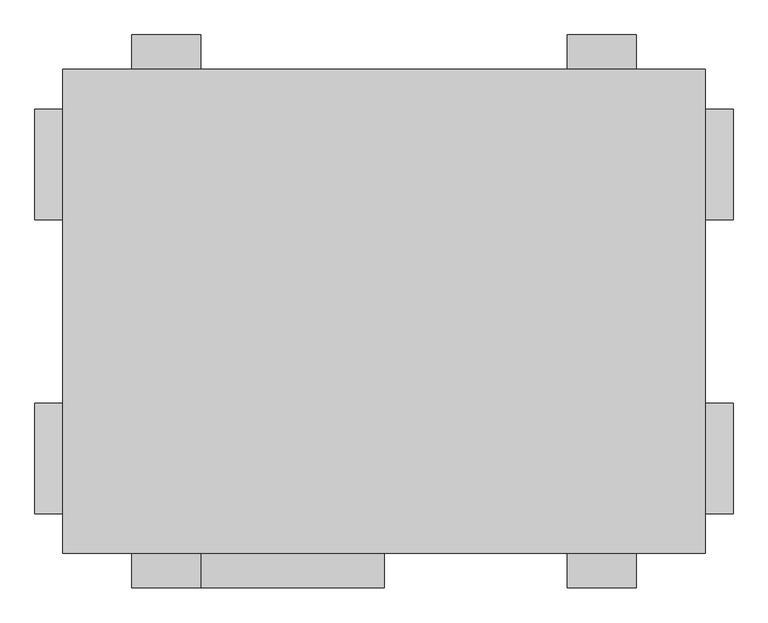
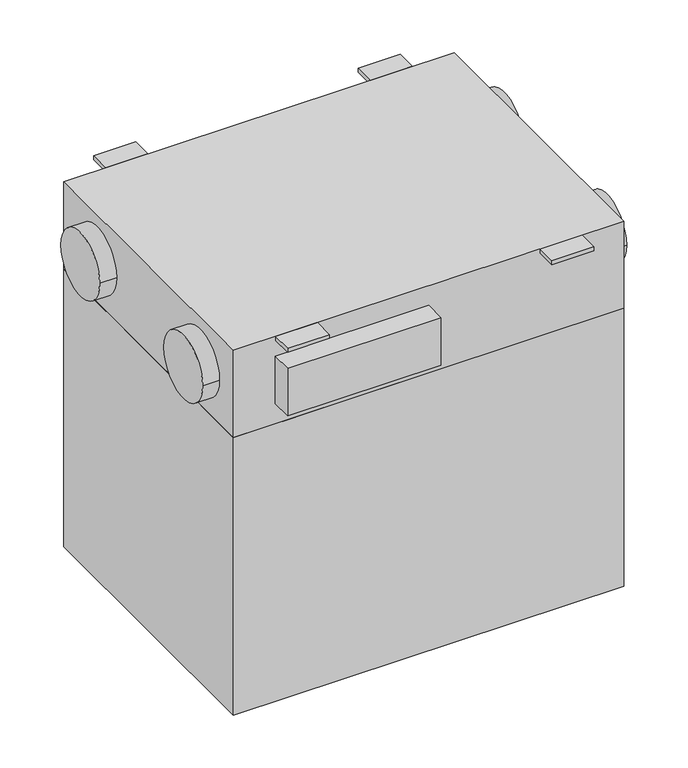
"""IFC4 building model written with IfcOpenShell, lengths in millimetres: proxy geometry, ADSK_КПВУ RONA SRME_круглая : Rona SRME 290 H1."""

from ifc_helpers import new_model, si_unit, frame, origin, place, context, project, spatial, polyline, circle_curve, outline, extrude, source, transform, mapped, element, save
from ifc_brep_helpers import plane_surface, cylinder_surface, advanced_brep


def mechanical_equipment_57a579dd(model_context):
    return source(origin(), model_context, "Body", "SolidModel", [
        extrude(outline(polyline([(731.0, 350.0), (731.0, -350.0), (-199.0, -350.0), (-199.0, 350.0), (731.0, 350.0)])), frame((0.0, 0.0, -770.0), z_axis=(0.0, 0.0, 1.0), x_axis=(1.0, 0.0, 0.0)), (0.0, 0.0, 1.0), 700.0),
        advanced_brep(
        [(731.0, -350.0, 150.0), (731.0, -350.0, -70.0), (731.0, 350.0, -70.0), (731.0, 350.0, 150.0), (731.0, -132.5, 40.0), (731.0, -292.5, 40.0), (731.0, 292.5, 40.0), (731.0, 132.5, 40.0), (-199.0, -350.0, 150.0), (-199.0, 350.0, 150.0), (-199.0, 350.0, -70.0), (-199.0, -350.0, -70.0), (-199.0, -132.5, 40.0), (-199.0, -292.5, 40.0), (-199.0, 132.5, 40.0), (-199.0, 292.5, 40.0), (-239.0, -292.5, 40.0), (-239.0, -132.5, 40.0), (-239.0, 132.5, 40.0), (-239.0, 292.5, 40.0), (-99.0, -350.0, 100.0), (266.0, -350.0, 100.0), (266.0, -350.0, -20.0), (-99.0, -350.0, -20.0), (771.0, -292.5, 40.0), (771.0, -132.5, 40.0), (771.0, 132.5, 40.0), (771.0, 292.5, 40.0), (-99.0, -400.0, 100.0), (266.0, -400.0, 100.0), (266.0, -400.0, -20.0), (-99.0, -400.0, -20.0)],
        [
            (0, 1),
            (1, 2),
            (2, 3),
            (3, 0),
            (4, 5, circle_curve(frame((731.0, -212.5, 40.0), z_axis=(-1.0, 0.0, 0.0), x_axis=(0.0, 1.0, 0.0)), 80.0)),
            (5, 4, circle_curve(frame((731.0, -212.5, 40.0), z_axis=(-1.0, 0.0, 0.0), x_axis=(0.0, 1.0, 0.0)), 80.0)),
            (6, 7, circle_curve(frame((731.0, 212.5, 40.0), z_axis=(-1.0, 0.0, 0.0), x_axis=(0.0, 1.0, 0.0)), 80.0)),
            (7, 6, circle_curve(frame((731.0, 212.5, 40.0), z_axis=(-1.0, 0.0, 0.0), x_axis=(0.0, 1.0, 0.0)), 80.0)),
            (8, 9),
            (9, 10),
            (10, 11),
            (11, 8),
            (12, 13, circle_curve(frame((-199.0, -212.5, 40.0), z_axis=(1.0, 0.0, 0.0), x_axis=(0.0, 1.0, 0.0)), 80.0)),
            (13, 12, circle_curve(frame((-199.0, -212.5, 40.0), z_axis=(1.0, 0.0, 0.0), x_axis=(0.0, 1.0, 0.0)), 80.0)),
            (14, 15, circle_curve(frame((-199.0, 212.5, 40.0), z_axis=(1.0, 0.0, 0.0), x_axis=(0.0, 1.0, 0.0)), 80.0)),
            (15, 14, circle_curve(frame((-199.0, 212.5, 40.0), z_axis=(1.0, 0.0, 0.0), x_axis=(0.0, 1.0, 0.0)), 80.0)),
            (16, 17, circle_curve(frame((-239.0, -212.5, 40.0), z_axis=(-1.0, 0.0, 0.0), x_axis=(0.0, 1.0, 0.0)), 80.0)),
            (17, 16, circle_curve(frame((-239.0, -212.5, 40.0), z_axis=(-1.0, 0.0, 0.0), x_axis=(0.0, 1.0, 0.0)), 80.0)),
            (18, 19, circle_curve(frame((-239.0, 212.5, 40.0), z_axis=(-1.0, 0.0, 0.0), x_axis=(0.0, 1.0, 0.0)), 80.0)),
            (19, 18, circle_curve(frame((-239.0, 212.5, 40.0), z_axis=(-1.0, 0.0, 0.0), x_axis=(0.0, 1.0, 0.0)), 80.0)),
            (0, 8),
            (11, 1),
            (20, 21),
            (21, 22),
            (22, 23),
            (23, 20),
            (10, 2),
            (9, 3),
            (16, 13),
            (12, 17),
            (24, 25, circle_curve(frame((771.0, -212.5, 40.0), z_axis=(1.0, 0.0, 0.0), x_axis=(0.0, 1.0, 0.0)), 80.0)),
            (25, 24, circle_curve(frame((771.0, -212.5, 40.0), z_axis=(1.0, 0.0, 0.0), x_axis=(0.0, 1.0, 0.0)), 80.0)),
            (26, 27, circle_curve(frame((771.0, 212.5, 40.0), z_axis=(1.0, 0.0, 0.0), x_axis=(0.0, 1.0, 0.0)), 80.0)),
            (27, 26, circle_curve(frame((771.0, 212.5, 40.0), z_axis=(1.0, 0.0, 0.0), x_axis=(0.0, 1.0, 0.0)), 80.0)),
            (24, 5),
            (4, 25),
            (19, 15),
            (14, 18),
            (26, 7),
            (6, 27),
            (20, 28),
            (28, 29),
            (29, 21),
            (22, 30),
            (30, 31),
            (31, 23),
            (31, 28),
            (30, 29),
        ],
        [
            plane_surface(frame((731.0, -350.0, 150.0), z_axis=(1.0, 0.0, 0.0), x_axis=(0.0, 0.0, -1.0))),
            plane_surface(frame((-199.0, -350.0, 150.0), z_axis=(-1.0, 0.0, 0.0), x_axis=(0.0, 0.0, 1.0))),
            plane_surface(frame((-239.0, -132.5, 40.0), z_axis=(-1.0, 0.0, 0.0), x_axis=(0.0, 0.0, -1.0))),
            plane_surface(frame((731.0, -350.0, 150.0), z_axis=(0.0, -1.0, 0.0), x_axis=(-1.0, 0.0, 0.0))),
            plane_surface(frame((731.0, -350.0, -70.0), z_axis=(0.0, 0.0, -1.0), x_axis=(-1.0, 0.0, 0.0))),
            plane_surface(frame((731.0, 350.0, -70.0), z_axis=(0.0, 1.0, 0.0), x_axis=(-1.0, 0.0, 0.0))),
            plane_surface(frame((731.0, 350.0, 150.0), z_axis=(0.0, 0.0, 1.0), x_axis=(-1.0, 0.0, 0.0))),
            cylinder_surface(frame((-239.0, -212.5, 40.0), z_axis=(1.0, 0.0, 0.0), x_axis=(0.0, 1.0, 0.0)), 80.0),
            plane_surface(frame((771.0, -132.5, 40.0), z_axis=(1.0, 0.0, 0.0), x_axis=(0.0, 0.0, 1.0))),
            cylinder_surface(frame((731.0, -212.5, 40.0), z_axis=(1.0, 0.0, 0.0), x_axis=(0.0, 1.0, 0.0)), 80.0),
            cylinder_surface(frame((-239.0, 212.5, 40.0), z_axis=(1.0, 0.0, 0.0), x_axis=(0.0, 1.0, 0.0)), 80.0),
            cylinder_surface(frame((731.0, 212.5, 40.0), z_axis=(1.0, 0.0, 0.0), x_axis=(0.0, 1.0, 0.0)), 80.0),
            plane_surface(frame((-99.0, -350.0, 100.0), z_axis=(0.0, 0.0, 1.0), x_axis=(-1.0, 0.0, 0.0))),
            plane_surface(frame((-99.0, -350.0, -20.0), z_axis=(0.0, 0.0, -1.0), x_axis=(1.0, 0.0, 0.0))),
            plane_surface(frame((-99.0, -350.0, 100.0), z_axis=(-1.0, 0.0, 0.0), x_axis=(0.0, 0.0, -1.0))),
            plane_surface(frame((-99.0, -400.0, 100.0), z_axis=(0.0, -1.0, 0.0), x_axis=(0.0, 0.0, -1.0))),
            plane_surface(frame((266.0, -400.0, 100.0), z_axis=(1.0, 0.0, 0.0), x_axis=(0.0, 0.0, -1.0))),
        ],
        [
            (0, [[1, 2, 3, 4], [5, 6], [7, 8]]),
            (1, [[9, 10, 11, 12], [13, 14], [15, 16]]),
            (2, [[17, 18]]),
            (2, [[19, 20]]),
            (3, [[-1, 21, -12, 22], [23, 24, 25, 26]]),
            (4, [[-2, -22, -11, 27]]),
            (5, [[-3, -27, -10, 28]]),
            (6, [[-4, -28, -9, -21]]),
            (7, [[-17, 29, -13, 30]]),
            (7, [[-18, -30, -14, -29]]),
            (8, [[31, 32]]),
            (8, [[33, 34]]),
            (9, [[-31, 35, -5, 36]]),
            (9, [[-32, -36, -6, -35]]),
            (10, [[-20, 37, -15, 38]]),
            (10, [[-19, -38, -16, -37]]),
            (11, [[-33, 39, -7, 40]]),
            (11, [[-34, -40, -8, -39]]),
            (12, [[41, 42, 43, -23]]),
            (13, [[44, 45, 46, -25]]),
            (14, [[-41, -26, -46, 47]]),
            (15, [[-42, -47, -45, 48]]),
            (16, [[-43, -48, -44, -24]]),
        ],
    ),
        extrude(outline(polyline([(1.0, 400.0), (1.0, 350.0), (-99.0, 350.0), (-99.0, 400.0), (1.0, 400.0)])), frame((0.0, 0.0, 140.0), z_axis=(0.0, 0.0, 1.0), x_axis=(1.0, 0.0, 0.0)), (0.0, 0.0, 1.0), 10.0),
        extrude(outline(polyline([(531.0, 400.0), (631.0, 400.0), (631.0, 350.0), (531.0, 350.0), (531.0, 400.0)])), frame((0.0, 0.0, 140.0), z_axis=(0.0, 0.0, 1.0), x_axis=(1.0, 0.0, 0.0)), (0.0, 0.0, 1.0), 10.0),
        extrude(outline(polyline([(1.0, -400.0), (-99.0, -400.0), (-99.0, -350.0), (1.0, -350.0), (1.0, -400.0)])), frame((0.0, 0.0, 140.0), z_axis=(0.0, 0.0, 1.0), x_axis=(1.0, 0.0, 0.0)), (0.0, 0.0, 1.0), 10.0),
        extrude(outline(polyline([(531.0, -400.0), (531.0, -350.0), (631.0, -350.0), (631.0, -400.0), (531.0, -400.0)])), frame((0.0, 0.0, 140.0), z_axis=(0.0, 0.0, 1.0), x_axis=(1.0, 0.0, 0.0)), (0.0, 0.0, 1.0), 10.0),
    ])


if __name__ == "__main__":
    model = new_model("IFC4")
    model_context = context("Model", 3, world=origin())
    ifc_project = project(units=[si_unit("LENGTHUNIT", "METRE", prefix="MILLI")], contexts=[model_context])
    site = spatial("IfcSite", under=ifc_project)
    building = spatial("IfcBuilding", under=site)
    placement = place(None, origin())
    mechanical_equipment_shape = mechanical_equipment_57a579dd(model_context)
    element("IfcBuildingElementProxy", 1, Name="ADSK_КПВУ RONA SRME_круглая : Rona SRME 290 H1", ObjectType="ADSK_КПВУ RONA SRME_круглая : Rona SRME 290 H1", at=placement, inside=building, context=model_context, shape_type="MappedRepresentation", body=[
        mapped(mechanical_equipment_shape, transform((0.0, 0.0, 0.0), x_axis=(1.0, 0.0, 0.0), y_axis=(0.0, 1.0, 0.0), z_axis=(0.0, 0.0, 1.0))),
    ])
    save(model, "model.ifc")
